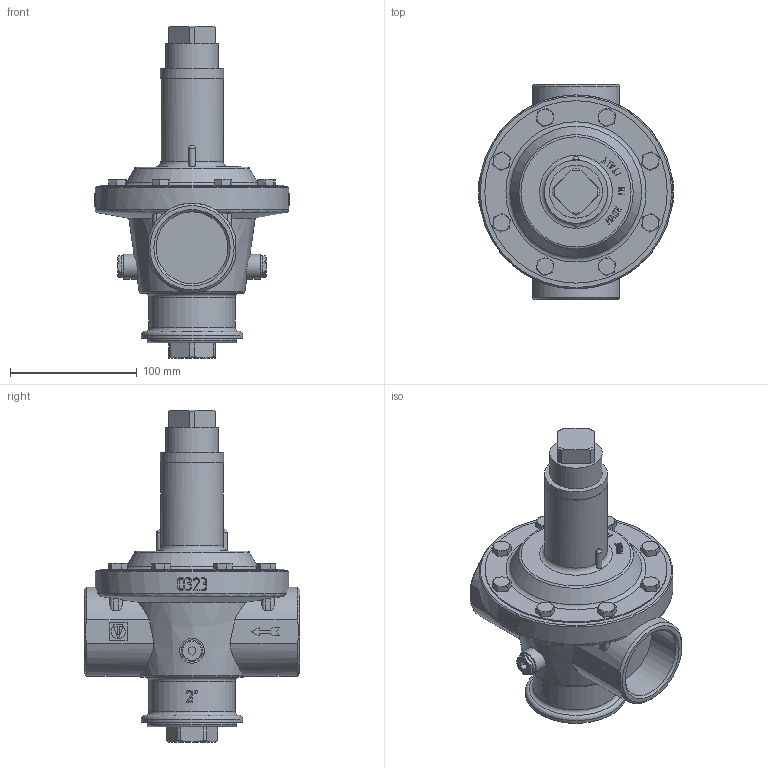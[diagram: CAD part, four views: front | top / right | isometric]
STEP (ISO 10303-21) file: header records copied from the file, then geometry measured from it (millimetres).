
FILE_DESCRIPTION(('STEP AP242'), '1');
FILE_NAME('VT.085.N.0907', '', ('UNSPECIFIED'), ('UNSPECIFIED'), 'C3D Converter', 'C3D Toolkit', '');
FILE_SCHEMA(('AP242_MANAGED_MODEL_BASED_3D_ENGINEERING_MIM_LF { 1 0 10303 442 1 1 4 }'));
Length unit declared in the file: millimetre
Bounding box: 154 x 170 x 262 mm (x, y, z)
Volume: 1474350.4 mm3; surface area: 119611.3 mm2
Topology: 1 solids, 1 shells, 897 faces, 2440 edges, 1607 vertices
Faces by surface type: plane 395, extrusion 364, cylinder 63, cone 60, torus 13, bspline 2
Full cylindrical faces by diameter (mm): 17 x2, 19.5 x2, 41.7 x1, 49.5 x1, 50 x1, 56.657 x2, 68 x1, 71 x1, 80 x1, 144 x1, 153 x1
Entity records: 43157 total; most frequent: CARTESIAN_POINT 22618, ORIENTED_EDGE 4766, DIRECTION 3038, EDGE_CURVE 2383, VERTEX_POINT 1585, VECTOR 1504, B_SPLINE_CURVE_WITH_KNOTS 1285, LINE 1140
